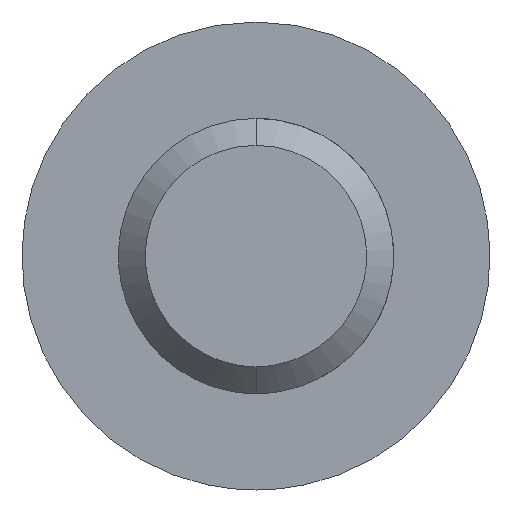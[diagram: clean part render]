
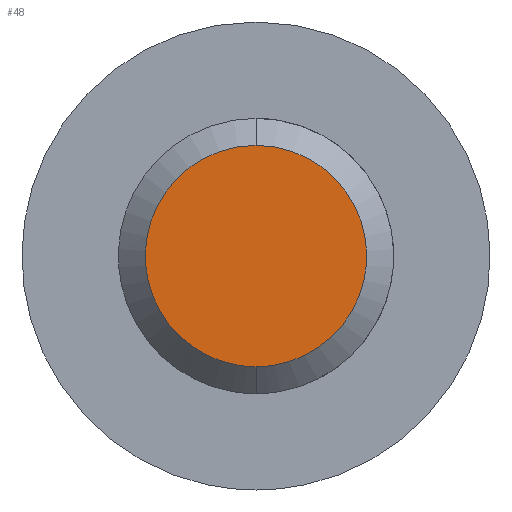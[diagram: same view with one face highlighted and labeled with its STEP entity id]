
A CAD part, front view. The second image highlights one B-rep face of the part: STEP entity #48.
In plain terms, the highlighted planar face has unit normal (0, -1, 0) as drawn and (1, 0, 0) by its records, which use the part's own axes.
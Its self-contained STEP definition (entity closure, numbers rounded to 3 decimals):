
#48=ADVANCED_FACE('',(#73),#746,.T.);
#73=FACE_OUTER_BOUND('',#98,.T.);
#98=EDGE_LOOP('',(#185,#186));
#185=ORIENTED_EDGE('',*,*,#533,.F.);
#186=ORIENTED_EDGE('',*,*,#569,.T.);
#220=(
BOUNDED_CURVE()
B_SPLINE_CURVE(2,(#1135,#1136,#1137,#1138,#1139),.UNSPECIFIED.,.F.,.F.)
B_SPLINE_CURVE_WITH_KNOTS((3,2,3),(0.,3.157,6.313),
 .UNSPECIFIED.)
CURVE()
GEOMETRIC_REPRESENTATION_ITEM()
RATIONAL_B_SPLINE_CURVE((1.,0.707,1.,0.707,1.))
REPRESENTATION_ITEM('')
);
#237=(
BOUNDED_CURVE()
B_SPLINE_CURVE(2,(#1356,#1357,#1358,#1359,#1360),.UNSPECIFIED.,.F.,.F.)
B_SPLINE_CURVE_WITH_KNOTS((3,2,3),(0.,3.157,6.313),
 .UNSPECIFIED.)
CURVE()
GEOMETRIC_REPRESENTATION_ITEM()
RATIONAL_B_SPLINE_CURVE((1.,0.707,1.,0.707,1.))
REPRESENTATION_ITEM('')
);
#238=(
BOUNDED_CURVE()
B_SPLINE_CURVE(2,(#1361,#1362,#1363,#1364,#1365),.UNSPECIFIED.,.F.,.F.)
B_SPLINE_CURVE_WITH_KNOTS((3,2,3),(-6.313,-3.157,0.),
 .UNSPECIFIED.)
CURVE()
GEOMETRIC_REPRESENTATION_ITEM()
RATIONAL_B_SPLINE_CURVE((1.,0.707,1.,0.707,1.))
REPRESENTATION_ITEM('')
);
#239=(
BOUNDED_CURVE()
B_SPLINE_CURVE(2,(#1366,#1367,#1368,#1369,#1370),.UNSPECIFIED.,.F.,.F.)
B_SPLINE_CURVE_WITH_KNOTS((3,2,3),(-6.313,-3.157,0.),
 .UNSPECIFIED.)
CURVE()
GEOMETRIC_REPRESENTATION_ITEM()
RATIONAL_B_SPLINE_CURVE((1.,0.707,1.,0.707,1.))
REPRESENTATION_ITEM('')
);
#264=PCURVE('',#752,#372);
#329=PCURVE('',#746,#437);
#330=PCURVE('',#746,#438);
#334=PCURVE('',#755,#442);
#372=DEFINITIONAL_REPRESENTATION('',(#595),#1472);
#437=DEFINITIONAL_REPRESENTATION('',(#237),#1472);
#438=DEFINITIONAL_REPRESENTATION('',(#239),#1472);
#442=DEFINITIONAL_REPRESENTATION('',(#682),#1472);
#479=SURFACE_CURVE('',#220,(#264,#329),.PCURVE_S1.);
#515=SURFACE_CURVE('',#238,(#330,#334),.PCURVE_S1.);
#533=EDGE_CURVE('',#711,#712,#479,.T.);
#569=EDGE_CURVE('',#711,#712,#515,.T.);
#595=B_SPLINE_CURVE_WITH_KNOTS('',1,(#1140,#1141),.UNSPECIFIED.,.F.,.F.,
(2,2),(0.,6.313),.UNSPECIFIED.);
#682=B_SPLINE_CURVE_WITH_KNOTS('',1,(#1382,#1383),.UNSPECIFIED.,.F.,.F.,
(2,2),(-6.313,0.),.UNSPECIFIED.);
#711=VERTEX_POINT('',#1047);
#712=VERTEX_POINT('',#1048);
#746=PLANE('',#812);
#752=(
BOUNDED_SURFACE()
B_SPLINE_SURFACE(2,1,((#896,#897),(#898,#899),(#900,#901),(#902,#903),(#904,
#905),(#906,#907),(#908,#909),(#910,#911),(#912,#913)),.UNSPECIFIED.,.T.,
 .F.,.F.)
B_SPLINE_SURFACE_WITH_KNOTS((3,2,2,2,3),(2,2),(0.,1.571,3.142,
4.712,6.283),(0.,3.891),.UNSPECIFIED.)
GEOMETRIC_REPRESENTATION_ITEM()
RATIONAL_B_SPLINE_SURFACE(((1.,1.),(0.707,0.707),
(1.,1.),(0.707,0.707),(1.,1.),(0.707,
0.707),(1.,1.),(0.707,0.707),(1.,1.)))
REPRESENTATION_ITEM('')
SURFACE()
);
#755=(
BOUNDED_SURFACE()
B_SPLINE_SURFACE(2,1,((#963,#964),(#965,#966),(#967,#968),(#969,#970),(#971,
#972),(#973,#974),(#975,#976),(#977,#978),(#979,#980)),.UNSPECIFIED.,.T.,
 .F.,.F.)
B_SPLINE_SURFACE_WITH_KNOTS((3,2,2,2,3),(2,2),(0.,1.571,3.142,
4.712,6.283),(0.,3.891),.UNSPECIFIED.)
GEOMETRIC_REPRESENTATION_ITEM()
RATIONAL_B_SPLINE_SURFACE(((1.,1.),(0.707,0.707),
(1.,1.),(0.707,0.707),(1.,1.),(0.707,
0.707),(1.,1.),(0.707,0.707),(1.,1.)))
REPRESENTATION_ITEM('')
SURFACE()
);
#812=AXIS2_PLACEMENT_3D('',#962,#833,$);
#833=DIRECTION('',(1.,0.,0.));
#896=CARTESIAN_POINT('',(18.01,0.,0.));
#897=CARTESIAN_POINT('',(15.258,-2.751,0.));
#898=CARTESIAN_POINT('',(18.01,0.,0.));
#899=CARTESIAN_POINT('',(15.258,-2.751,2.751));
#900=CARTESIAN_POINT('',(18.01,0.,0.));
#901=CARTESIAN_POINT('',(15.258,0.,2.751));
#902=CARTESIAN_POINT('',(18.01,0.,0.));
#903=CARTESIAN_POINT('',(15.258,2.751,2.751));
#904=CARTESIAN_POINT('',(18.01,0.,0.));
#905=CARTESIAN_POINT('',(15.258,2.751,0.));
#906=CARTESIAN_POINT('',(18.01,0.,0.));
#907=CARTESIAN_POINT('',(15.258,2.751,-2.751));
#908=CARTESIAN_POINT('',(18.01,0.,0.));
#909=CARTESIAN_POINT('',(15.258,0.,-2.751));
#910=CARTESIAN_POINT('',(18.01,0.,0.));
#911=CARTESIAN_POINT('',(15.258,-2.751,-2.751));
#912=CARTESIAN_POINT('',(18.01,0.,0.));
#913=CARTESIAN_POINT('',(15.258,-2.751,0.));
#962=CARTESIAN_POINT('',(16.,-2.413,2.413));
#963=CARTESIAN_POINT('',(18.01,0.,0.));
#964=CARTESIAN_POINT('',(15.258,2.751,0.));
#965=CARTESIAN_POINT('',(18.01,0.,0.));
#966=CARTESIAN_POINT('',(15.258,2.751,-2.751));
#967=CARTESIAN_POINT('',(18.01,0.,0.));
#968=CARTESIAN_POINT('',(15.258,0.,-2.751));
#969=CARTESIAN_POINT('',(18.01,0.,0.));
#970=CARTESIAN_POINT('',(15.258,-2.751,-2.751));
#971=CARTESIAN_POINT('',(18.01,0.,0.));
#972=CARTESIAN_POINT('',(15.258,-2.751,0.));
#973=CARTESIAN_POINT('',(18.01,0.,0.));
#974=CARTESIAN_POINT('',(15.258,-2.751,2.751));
#975=CARTESIAN_POINT('',(18.01,0.,0.));
#976=CARTESIAN_POINT('',(15.258,0.,2.751));
#977=CARTESIAN_POINT('',(18.01,0.,0.));
#978=CARTESIAN_POINT('',(15.258,2.751,2.751));
#979=CARTESIAN_POINT('',(18.01,0.,0.));
#980=CARTESIAN_POINT('',(15.258,2.751,0.));
#1047=CARTESIAN_POINT('',(16.,0.,2.01));
#1048=CARTESIAN_POINT('',(16.,0.,-2.009));
#1135=CARTESIAN_POINT('',(16.,0.,2.01));
#1136=CARTESIAN_POINT('',(16.,2.01,2.01));
#1137=CARTESIAN_POINT('',(16.,2.01,0.));
#1138=CARTESIAN_POINT('',(16.,2.01,-2.009));
#1139=CARTESIAN_POINT('',(16.,0.,-2.009));
#1140=CARTESIAN_POINT('',(1.571,2.842));
#1141=CARTESIAN_POINT('',(4.712,2.842));
#1356=CARTESIAN_POINT('',(-1.005,0.));
#1357=CARTESIAN_POINT('',(-1.005,2.01));
#1358=CARTESIAN_POINT('',(1.005,2.01));
#1359=CARTESIAN_POINT('',(3.014,2.01));
#1360=CARTESIAN_POINT('',(3.014,0.));
#1361=CARTESIAN_POINT('',(16.,0.,2.01));
#1362=CARTESIAN_POINT('',(16.,-2.01,2.01));
#1363=CARTESIAN_POINT('',(16.,-2.01,0.));
#1364=CARTESIAN_POINT('',(16.,-2.01,-2.009));
#1365=CARTESIAN_POINT('',(16.,0.,-2.009));
#1366=CARTESIAN_POINT('',(-1.005,0.));
#1367=CARTESIAN_POINT('',(-1.005,-2.01));
#1368=CARTESIAN_POINT('',(1.005,-2.01));
#1369=CARTESIAN_POINT('',(3.014,-2.01));
#1370=CARTESIAN_POINT('',(3.014,0.));
#1382=CARTESIAN_POINT('',(4.712,2.842));
#1383=CARTESIAN_POINT('',(1.571,2.842));
#1472=(
GEOMETRIC_REPRESENTATION_CONTEXT(2)
PARAMETRIC_REPRESENTATION_CONTEXT()
REPRESENTATION_CONTEXT('pspace','')
);
